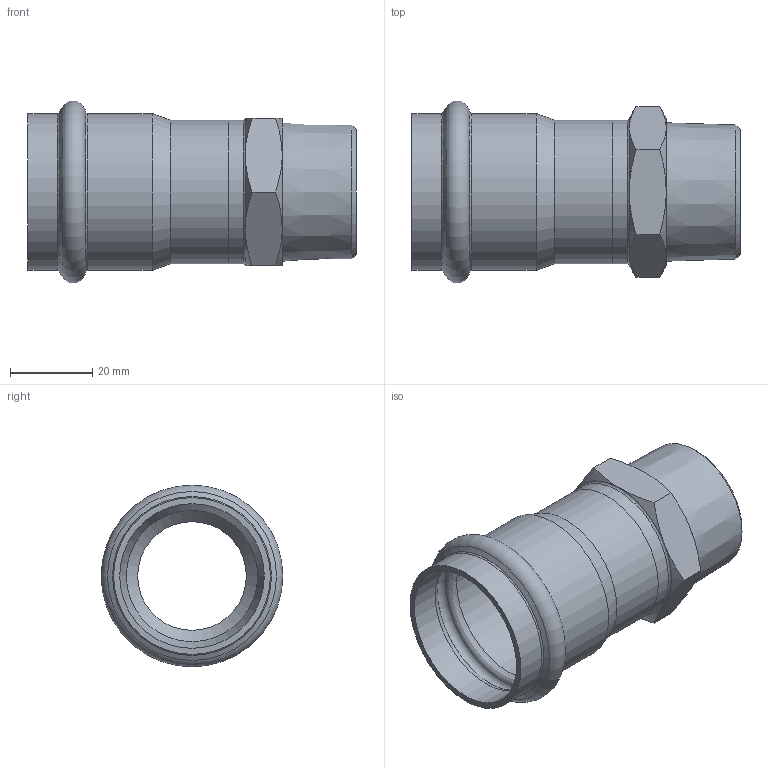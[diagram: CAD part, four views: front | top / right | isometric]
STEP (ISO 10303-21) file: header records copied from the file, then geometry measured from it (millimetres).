
FILE_DESCRIPTION((''),'2;1');
FILE_NAME('G:\Technics\CAD\Bauteile\035\69243G351(1).stp','2008-03-03T10:35:45',('herberg'),(''),'Autodesk Inventor 2008','Autodesk Inventor 2008','');
FILE_SCHEMA(('AUTOMOTIVE_DESIGN { 1 0 10303 214 1 1 1 1 }'));
Length unit declared in the file: millimetre
Products named in the file (3): 69243G351(1); HM_69270G35(1); AG351(1)
Assembly tree (2 placements, depth 2):
  69243G351(1)
    HM_69270G35(1)
    AG351(1)
Bounding box: 80 x 44.29 x 44.29 mm (x, y, z)
Volume: 19342.4 mm3; surface area: 19139.2 mm2
Topology: 2 solids, 2 shells, 46 faces, 97 edges, 56 vertices
Faces by surface type: cone 18, plane 11, bspline 8, cylinder 7, torus 2
Full cylindrical faces by diameter (mm): 32 x1, 35 x2, 35.25 x2, 38.25 x2
Entity records: 1367 total; most frequent: CARTESIAN_POINT 492, DIRECTION 172, ORIENTED_EDGE 140, AXIS2_PLACEMENT_3D 83, EDGE_LOOP 74, EDGE_CURVE 70, VERTEX_POINT 52, FACE_OUTER_BOUND 46
